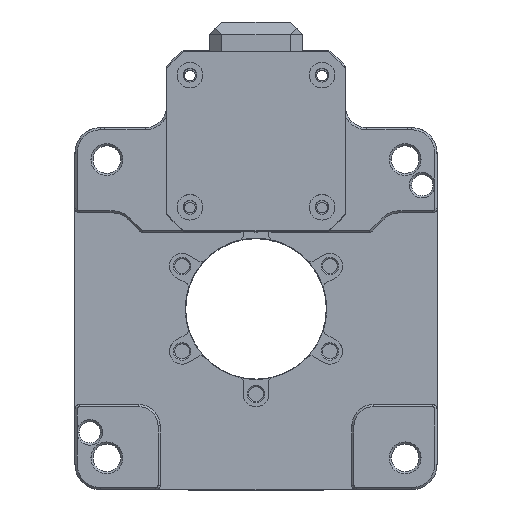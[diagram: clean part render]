
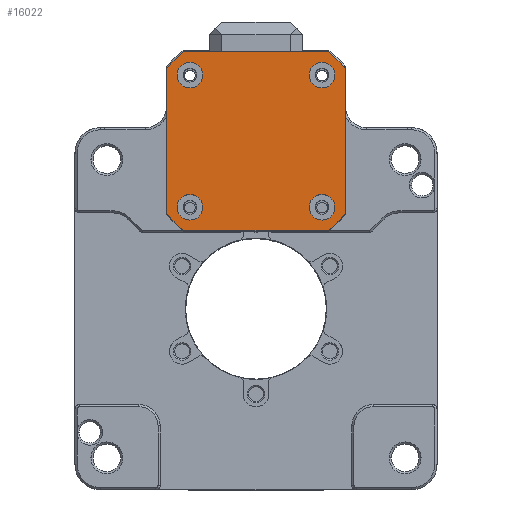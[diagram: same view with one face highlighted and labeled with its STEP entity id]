
A CAD part, top view. The second image highlights one B-rep face of the part: STEP entity #16022.
In plain terms, the highlighted planar face has unit normal (0, 0, 1).
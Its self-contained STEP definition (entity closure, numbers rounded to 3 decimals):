
#164 = VECTOR ( 'NONE', #2971, 1000. ) ;
#720 = VERTEX_POINT ( 'NONE', #29405 ) ;
#1231 = AXIS2_PLACEMENT_3D ( 'NONE', #23454, #19253, #15036 ) ;
#1493 = CARTESIAN_POINT ( 'NONE',  ( -18.9, 30.785, 48.35 ) ) ;
#2557 = CARTESIAN_POINT ( 'NONE',  ( -18.9, 61.785, 48.35 ) ) ;
#2971 = DIRECTION ( 'NONE',  ( 0., -1., 0. ) ) ;
#3047 = AXIS2_PLACEMENT_3D ( 'NONE', #51043, #22200, #10916 ) ;
#3879 = EDGE_CURVE ( 'NONE', #34408, #17533, #7020, .T. ) ;
#3976 = EDGE_CURVE ( 'NONE', #39629, #31261, #23915, .T. ) ;
#4230 = LINE ( 'NONE', #8235, #27702 ) ;
#4764 = DIRECTION ( 'NONE',  ( 0., 0., -1. ) ) ;
#5567 = DIRECTION ( 'NONE',  ( 1., 0., 0. ) ) ;
#6144 = AXIS2_PLACEMENT_3D ( 'NONE', #9559, #24867, #5567 ) ;
#6407 = DIRECTION ( 'NONE',  ( -1., 0., 0. ) ) ;
#6410 = AXIS2_PLACEMENT_3D ( 'NONE', #7770, #51409, #39196 ) ;
#6475 = EDGE_CURVE ( 'NONE', #40931, #46492, #46839, .T. ) ;
#6601 = VERTEX_POINT ( 'NONE', #40184 ) ;
#6712 = ORIENTED_EDGE ( 'NONE', *, *, #29619, .F. ) ;
#6779 = ORIENTED_EDGE ( 'NONE', *, *, #6475, .F. ) ;
#6985 = PLANE ( 'NONE',  #6410 ) ;
#7020 = LINE ( 'NONE', #39741, #34008 ) ;
#7045 = ORIENTED_EDGE ( 'NONE', *, *, #24585, .F. ) ;
#7262 = CIRCLE ( 'NONE', #50305, 3. ) ;
#7770 = CARTESIAN_POINT ( 'NONE',  ( -3.4, 46.285, 48.35 ) ) ;
#8073 = AXIS2_PLACEMENT_3D ( 'NONE', #18567, #51078, #6407 ) ;
#8082 = AXIS2_PLACEMENT_3D ( 'NONE', #14352, #9861, #30728 ) ;
#8235 = CARTESIAN_POINT ( 'NONE',  ( -20.37, 25.285, 48.35 ) ) ;
#8670 = EDGE_LOOP ( 'NONE', ( #44804, #30851 ) ) ;
#8840 = CIRCLE ( 'NONE', #1231, 3. ) ;
#9309 = VERTEX_POINT ( 'NONE', #51564 ) ;
#9476 = EDGE_CURVE ( 'NONE', #31261, #39629, #41421, .T. ) ;
#9559 = CARTESIAN_POINT ( 'NONE',  ( -3.4, 46.285, 48.35 ) ) ;
#9861 = DIRECTION ( 'NONE',  ( 0., 0., -1. ) ) ;
#10391 = EDGE_CURVE ( 'NONE', #46492, #51741, #28312, .T. ) ;
#10916 = DIRECTION ( 'NONE',  ( -1., 0., 0. ) ) ;
#11538 = EDGE_CURVE ( 'NONE', #9309, #6601, #39591, .T. ) ;
#12053 = CARTESIAN_POINT ( 'NONE',  ( 12.1, 30.785, 48.35 ) ) ;
#13335 = CARTESIAN_POINT ( 'NONE',  ( 9.1, 61.785, 48.35 ) ) ;
#14352 = CARTESIAN_POINT ( 'NONE',  ( -3.4, 46.285, 48.35 ) ) ;
#14598 = AXIS2_PLACEMENT_3D ( 'NONE', #46316, #22252, #42614 ) ;
#15036 = DIRECTION ( 'NONE',  ( -1., 0., 0. ) ) ;
#15309 = EDGE_LOOP ( 'NONE', ( #52307, #7045 ) ) ;
#15405 = CARTESIAN_POINT ( 'NONE',  ( 17.6, 29.314, 48.35 ) ) ;
#15582 = CARTESIAN_POINT ( 'NONE',  ( 17.6, 29.314, 48.35 ) ) ;
#15610 = DIRECTION ( 'NONE',  ( 1., 0., 0. ) ) ;
#15741 = FACE_BOUND ( 'NONE', #36151, .T. ) ;
#16022 = ADVANCED_FACE ( 'NONE', ( #27598, #51150, #43975, #15741, #35728 ), #6985, .F. ) ;
#16127 = DIRECTION ( 'NONE',  ( 0., 0., 1. ) ) ;
#17271 = AXIS2_PLACEMENT_3D ( 'NONE', #40178, #4764, #20895 ) ;
#17505 = CARTESIAN_POINT ( 'NONE',  ( -3.4, 46.285, 48.35 ) ) ;
#17533 = VERTEX_POINT ( 'NONE', #18765 ) ;
#17843 = ORIENTED_EDGE ( 'NONE', *, *, #50387, .F. ) ;
#18443 = DIRECTION ( 'NONE',  ( -1., 0., 0. ) ) ;
#18567 = CARTESIAN_POINT ( 'NONE',  ( -18.9, 61.785, 48.35 ) ) ;
#18765 = CARTESIAN_POINT ( 'NONE',  ( -24.4, 63.255, 48.35 ) ) ;
#18936 = ORIENTED_EDGE ( 'NONE', *, *, #3879, .F. ) ;
#18949 = VERTEX_POINT ( 'NONE', #39837 ) ;
#19253 = DIRECTION ( 'NONE',  ( 0., 0., 1. ) ) ;
#20488 = CIRCLE ( 'NONE', #14598, 3. ) ;
#20895 = DIRECTION ( 'NONE',  ( 1., 0., 0. ) ) ;
#20910 = DIRECTION ( 'NONE',  ( 0., 0., -1. ) ) ;
#20997 = DIRECTION ( 'NONE',  ( -1., 0., 0. ) ) ;
#21072 = EDGE_CURVE ( 'NONE', #17533, #9309, #48346, .T. ) ;
#22200 = DIRECTION ( 'NONE',  ( 0., 0., 1. ) ) ;
#22252 = DIRECTION ( 'NONE',  ( 0., 0., 1. ) ) ;
#23153 = ORIENTED_EDGE ( 'NONE', *, *, #38012, .F. ) ;
#23454 = CARTESIAN_POINT ( 'NONE',  ( 12.1, 61.785, 48.35 ) ) ;
#23907 = DIRECTION ( 'NONE',  ( 0., 0., 1. ) ) ;
#23915 = CIRCLE ( 'NONE', #35687, 3. ) ;
#24585 = EDGE_CURVE ( 'NONE', #27925, #30865, #37522, .T. ) ;
#24867 = DIRECTION ( 'NONE',  ( 0., 0., -1. ) ) ;
#25467 = ORIENTED_EDGE ( 'NONE', *, *, #10391, .F. ) ;
#25805 = CIRCLE ( 'NONE', #3047, 3. ) ;
#25880 = EDGE_LOOP ( 'NONE', ( #17843, #49614, #51344, #18936, #32608, #44368, #25467, #6779 ) ) ;
#26074 = DIRECTION ( 'NONE',  ( 0., 0., 1. ) ) ;
#27263 = CARTESIAN_POINT ( 'NONE',  ( 17.6, 63.255, 48.35 ) ) ;
#27598 = FACE_BOUND ( 'NONE', #41202, .T. ) ;
#27702 = VECTOR ( 'NONE', #32533, 1000. ) ;
#27925 = VERTEX_POINT ( 'NONE', #38074 ) ;
#28312 = CIRCLE ( 'NONE', #8082, 27. ) ;
#28944 = CARTESIAN_POINT ( 'NONE',  ( 13.571, 25.285, 48.35 ) ) ;
#29299 = AXIS2_PLACEMENT_3D ( 'NONE', #17505, #20910, #33600 ) ;
#29405 = CARTESIAN_POINT ( 'NONE',  ( 15.1, 30.785, 48.35 ) ) ;
#29619 = EDGE_CURVE ( 'NONE', #42361, #31636, #20488, .T. ) ;
#29682 = CARTESIAN_POINT ( 'NONE',  ( -15.9, 30.785, 48.35 ) ) ;
#29922 = CIRCLE ( 'NONE', #17271, 27. ) ;
#30159 = CIRCLE ( 'NONE', #29299, 27. ) ;
#30230 = CARTESIAN_POINT ( 'NONE',  ( -21.9, 30.785, 48.35 ) ) ;
#30728 = DIRECTION ( 'NONE',  ( 1., 0., 0. ) ) ;
#30851 = ORIENTED_EDGE ( 'NONE', *, *, #3976, .F. ) ;
#30865 = VERTEX_POINT ( 'NONE', #47846 ) ;
#31261 = VERTEX_POINT ( 'NONE', #30230 ) ;
#31345 = DIRECTION ( 'NONE',  ( -1., 0., 0. ) ) ;
#31427 = EDGE_CURVE ( 'NONE', #720, #18949, #25805, .T. ) ;
#31636 = VERTEX_POINT ( 'NONE', #51569 ) ;
#32533 = DIRECTION ( 'NONE',  ( -1., 0., 0. ) ) ;
#32608 = ORIENTED_EDGE ( 'NONE', *, *, #52056, .F. ) ;
#33474 = EDGE_CURVE ( 'NONE', #51741, #33571, #4230, .T. ) ;
#33571 = VERTEX_POINT ( 'NONE', #40950 ) ;
#33600 = DIRECTION ( 'NONE',  ( 1., 0., 0. ) ) ;
#34008 = VECTOR ( 'NONE', #50909, 1000. ) ;
#34031 = EDGE_CURVE ( 'NONE', #30865, #27925, #46434, .T. ) ;
#34408 = VERTEX_POINT ( 'NONE', #40179 ) ;
#34778 = ORIENTED_EDGE ( 'NONE', *, *, #38357, .F. ) ;
#35607 = CARTESIAN_POINT ( 'NONE',  ( -20.37, 67.285, 48.35 ) ) ;
#35687 = AXIS2_PLACEMENT_3D ( 'NONE', #45048, #23907, #20997 ) ;
#35728 = FACE_OUTER_BOUND ( 'NONE', #25880, .T. ) ;
#36151 = EDGE_LOOP ( 'NONE', ( #6712, #23153 ) ) ;
#36384 = DIRECTION ( 'NONE',  ( -1., 0., 0. ) ) ;
#37522 = CIRCLE ( 'NONE', #8073, 3. ) ;
#38012 = EDGE_CURVE ( 'NONE', #31636, #42361, #8840, .T. ) ;
#38074 = CARTESIAN_POINT ( 'NONE',  ( -15.9, 61.785, 48.35 ) ) ;
#38357 = EDGE_CURVE ( 'NONE', #18949, #720, #7262, .T. ) ;
#38984 = VECTOR ( 'NONE', #15610, 1000. ) ;
#39196 = DIRECTION ( 'NONE',  ( -1., 0., 0. ) ) ;
#39591 = LINE ( 'NONE', #35607, #38984 ) ;
#39629 = VERTEX_POINT ( 'NONE', #29682 ) ;
#39741 = CARTESIAN_POINT ( 'NONE',  ( -24.4, 29.314, 48.35 ) ) ;
#39837 = CARTESIAN_POINT ( 'NONE',  ( 9.1, 30.785, 48.35 ) ) ;
#40178 = CARTESIAN_POINT ( 'NONE',  ( -3.4, 46.285, 48.35 ) ) ;
#40179 = CARTESIAN_POINT ( 'NONE',  ( -24.4, 29.314, 48.35 ) ) ;
#40184 = CARTESIAN_POINT ( 'NONE',  ( 13.571, 67.285, 48.35 ) ) ;
#40931 = VERTEX_POINT ( 'NONE', #27263 ) ;
#40950 = CARTESIAN_POINT ( 'NONE',  ( -20.37, 25.285, 48.35 ) ) ;
#41202 = EDGE_LOOP ( 'NONE', ( #34778, #43519 ) ) ;
#41421 = CIRCLE ( 'NONE', #48222, 3. ) ;
#42361 = VERTEX_POINT ( 'NONE', #13335 ) ;
#42614 = DIRECTION ( 'NONE',  ( -1., 0., 0. ) ) ;
#43519 = ORIENTED_EDGE ( 'NONE', *, *, #31427, .F. ) ;
#43975 = FACE_BOUND ( 'NONE', #15309, .T. ) ;
#44281 = DIRECTION ( 'NONE',  ( 0., 0., 1. ) ) ;
#44368 = ORIENTED_EDGE ( 'NONE', *, *, #33474, .F. ) ;
#44804 = ORIENTED_EDGE ( 'NONE', *, *, #9476, .F. ) ;
#45048 = CARTESIAN_POINT ( 'NONE',  ( -18.9, 30.785, 48.35 ) ) ;
#46316 = CARTESIAN_POINT ( 'NONE',  ( 12.1, 61.785, 48.35 ) ) ;
#46434 = CIRCLE ( 'NONE', #48154, 3. ) ;
#46492 = VERTEX_POINT ( 'NONE', #15582 ) ;
#46839 = LINE ( 'NONE', #15405, #164 ) ;
#47846 = CARTESIAN_POINT ( 'NONE',  ( -21.9, 61.785, 48.35 ) ) ;
#48154 = AXIS2_PLACEMENT_3D ( 'NONE', #2557, #26074, #18443 ) ;
#48222 = AXIS2_PLACEMENT_3D ( 'NONE', #1493, #16127, #36384 ) ;
#48346 = CIRCLE ( 'NONE', #6144, 27. ) ;
#49614 = ORIENTED_EDGE ( 'NONE', *, *, #11538, .F. ) ;
#50305 = AXIS2_PLACEMENT_3D ( 'NONE', #12053, #44281, #31345 ) ;
#50387 = EDGE_CURVE ( 'NONE', #6601, #40931, #29922, .T. ) ;
#50909 = DIRECTION ( 'NONE',  ( 0., 1., 0. ) ) ;
#51043 = CARTESIAN_POINT ( 'NONE',  ( 12.1, 30.785, 48.35 ) ) ;
#51078 = DIRECTION ( 'NONE',  ( 0., 0., 1. ) ) ;
#51150 = FACE_BOUND ( 'NONE', #8670, .T. ) ;
#51344 = ORIENTED_EDGE ( 'NONE', *, *, #21072, .F. ) ;
#51409 = DIRECTION ( 'NONE',  ( 0., 0., -1. ) ) ;
#51564 = CARTESIAN_POINT ( 'NONE',  ( -20.37, 67.285, 48.35 ) ) ;
#51569 = CARTESIAN_POINT ( 'NONE',  ( 15.1, 61.785, 48.35 ) ) ;
#51741 = VERTEX_POINT ( 'NONE', #28944 ) ;
#52056 = EDGE_CURVE ( 'NONE', #33571, #34408, #30159, .T. ) ;
#52307 = ORIENTED_EDGE ( 'NONE', *, *, #34031, .F. ) ;
